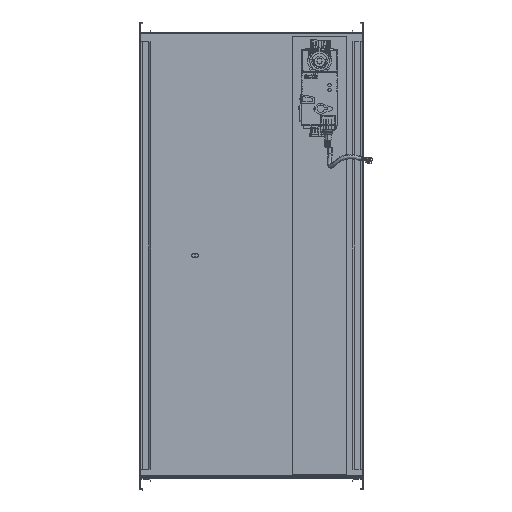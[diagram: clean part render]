
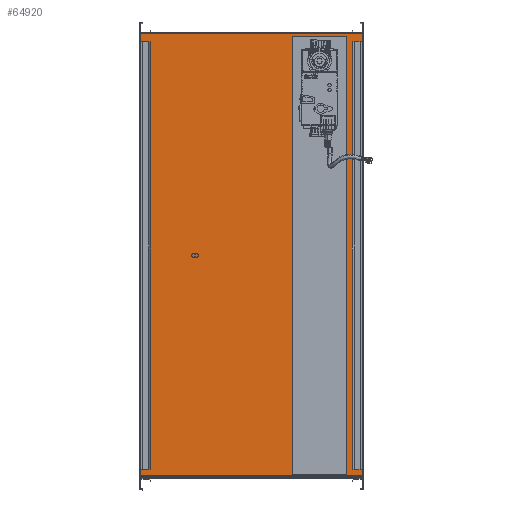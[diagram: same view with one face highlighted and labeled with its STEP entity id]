
A CAD part, top view. The second image highlights one B-rep face of the part: STEP entity #64920.
In plain terms, the highlighted planar face has unit normal (0, 0, 1).
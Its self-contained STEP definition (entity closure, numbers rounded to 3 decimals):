
#3499 = DIRECTION ( 'NONE',  ( 0., -1., 0. ) ) ;
#3617 = FACE_BOUND ( 'NONE', #9202, .T. ) ;
#4380 = EDGE_CURVE ( 'NONE', #47953, #69430, #9328, .T. ) ;
#6752 = EDGE_CURVE ( 'NONE', #43830, #49165, #21835, .T. ) ;
#7112 = VECTOR ( 'NONE', #55710, 1000. ) ;
#8533 = CARTESIAN_POINT ( 'NONE',  ( -244.423, -383.848, 1600. ) ) ;
#8976 = DIRECTION ( 'NONE',  ( 1., 0., 0. ) ) ;
#9202 = EDGE_LOOP ( 'NONE', ( #25216, #31505, #34616, #45253 ) ) ;
#9328 = LINE ( 'NONE', #46705, #78447 ) ;
#12697 = AXIS2_PLACEMENT_3D ( 'NONE', #46353, #53598, #8976 ) ;
#15747 = EDGE_CURVE ( 'NONE', #85424, #25308, #42268, .T. ) ;
#16472 = DIRECTION ( 'NONE',  ( 1., 0., 0. ) ) ;
#17283 = VECTOR ( 'NONE', #40196, 1000. ) ;
#17372 = LINE ( 'NONE', #22859, #17283 ) ;
#17699 = PLANE ( 'NONE',  #12697 ) ;
#20020 = EDGE_LOOP ( 'NONE', ( #88159, #40183, #83651, #57914 ) ) ;
#20723 = VERTEX_POINT ( 'NONE', #53485 ) ;
#21835 = LINE ( 'NONE', #60151, #38590 ) ;
#22859 = CARTESIAN_POINT ( 'NONE',  ( -244.423, 412.152, 1600. ) ) ;
#23088 = LINE ( 'NONE', #8533, #77043 ) ;
#23707 = LINE ( 'NONE', #45089, #63121 ) ;
#25216 = ORIENTED_EDGE ( 'NONE', *, *, #6752, .F. ) ;
#25308 = VERTEX_POINT ( 'NONE', #52391 ) ;
#28168 = DIRECTION ( 'NONE',  ( 0., -1., 0. ) ) ;
#28250 = LINE ( 'NONE', #43764, #55573 ) ;
#31505 = ORIENTED_EDGE ( 'NONE', *, *, #51590, .F. ) ;
#33721 = VECTOR ( 'NONE', #28168, 1000. ) ;
#34616 = ORIENTED_EDGE ( 'NONE', *, *, #52130, .F. ) ;
#35292 = CARTESIAN_POINT ( 'NONE',  ( 29.117, -381.848, 1600. ) ) ;
#35912 = CARTESIAN_POINT ( 'NONE',  ( -244.423, -383.848, 1600. ) ) ;
#38590 = VECTOR ( 'NONE', #73682, 1000. ) ;
#40183 = ORIENTED_EDGE ( 'NONE', *, *, #86584, .F. ) ;
#40196 = DIRECTION ( 'NONE',  ( 1., 0., 0. ) ) ;
#40698 = LINE ( 'NONE', #35292, #7112 ) ;
#42268 = LINE ( 'NONE', #35912, #33721 ) ;
#43411 = CARTESIAN_POINT ( 'NONE',  ( 127.117, 408.152, 1600. ) ) ;
#43595 = EDGE_CURVE ( 'NONE', #25308, #69430, #23088, .T. ) ;
#43764 = CARTESIAN_POINT ( 'NONE',  ( 127.117, -381.848, 1600. ) ) ;
#43830 = VERTEX_POINT ( 'NONE', #43411 ) ;
#45089 = CARTESIAN_POINT ( 'NONE',  ( 29.117, -381.848, 1600. ) ) ;
#45253 = ORIENTED_EDGE ( 'NONE', *, *, #71692, .F. ) ;
#46353 = CARTESIAN_POINT ( 'NONE',  ( -244.423, -383.848, 1600. ) ) ;
#46705 = CARTESIAN_POINT ( 'NONE',  ( 155.577, -383.848, 1600. ) ) ;
#47855 = CARTESIAN_POINT ( 'NONE',  ( 127.117, -381.848, 1600. ) ) ;
#47953 = VERTEX_POINT ( 'NONE', #77728 ) ;
#49165 = VERTEX_POINT ( 'NONE', #89069 ) ;
#49659 = DIRECTION ( 'NONE',  ( 0., 1., 0. ) ) ;
#51590 = EDGE_CURVE ( 'NONE', #80988, #43830, #28250, .T. ) ;
#52130 = EDGE_CURVE ( 'NONE', #20723, #80988, #23707, .T. ) ;
#52391 = CARTESIAN_POINT ( 'NONE',  ( -244.423, -383.848, 1600. ) ) ;
#53485 = CARTESIAN_POINT ( 'NONE',  ( 29.117, -381.848, 1600. ) ) ;
#53598 = DIRECTION ( 'NONE',  ( 0., 0., 1. ) ) ;
#55573 = VECTOR ( 'NONE', #49659, 1000. ) ;
#55710 = DIRECTION ( 'NONE',  ( 0., -1., 0. ) ) ;
#57914 = ORIENTED_EDGE ( 'NONE', *, *, #43595, .T. ) ;
#60151 = CARTESIAN_POINT ( 'NONE',  ( 29.117, 408.152, 1600. ) ) ;
#60874 = FACE_OUTER_BOUND ( 'NONE', #20020, .T. ) ;
#63121 = VECTOR ( 'NONE', #16472, 1000. ) ;
#64920 = ADVANCED_FACE ( 'NONE', ( #60874, #3617 ), #17699, .T. ) ;
#67288 = CARTESIAN_POINT ( 'NONE',  ( 155.577, -383.848, 1600. ) ) ;
#69430 = VERTEX_POINT ( 'NONE', #67288 ) ;
#71692 = EDGE_CURVE ( 'NONE', #49165, #20723, #40698, .T. ) ;
#73682 = DIRECTION ( 'NONE',  ( -1., 0., 0. ) ) ;
#75520 = CARTESIAN_POINT ( 'NONE',  ( -244.423, 412.152, 1600. ) ) ;
#77043 = VECTOR ( 'NONE', #89028, 1000. ) ;
#77728 = CARTESIAN_POINT ( 'NONE',  ( 155.577, 412.152, 1600. ) ) ;
#78447 = VECTOR ( 'NONE', #3499, 1000. ) ;
#80988 = VERTEX_POINT ( 'NONE', #47855 ) ;
#83651 = ORIENTED_EDGE ( 'NONE', *, *, #15747, .T. ) ;
#85424 = VERTEX_POINT ( 'NONE', #75520 ) ;
#86584 = EDGE_CURVE ( 'NONE', #85424, #47953, #17372, .T. ) ;
#88159 = ORIENTED_EDGE ( 'NONE', *, *, #4380, .F. ) ;
#89028 = DIRECTION ( 'NONE',  ( 1., 0., 0. ) ) ;
#89069 = CARTESIAN_POINT ( 'NONE',  ( 29.117, 408.152, 1600. ) ) ;
